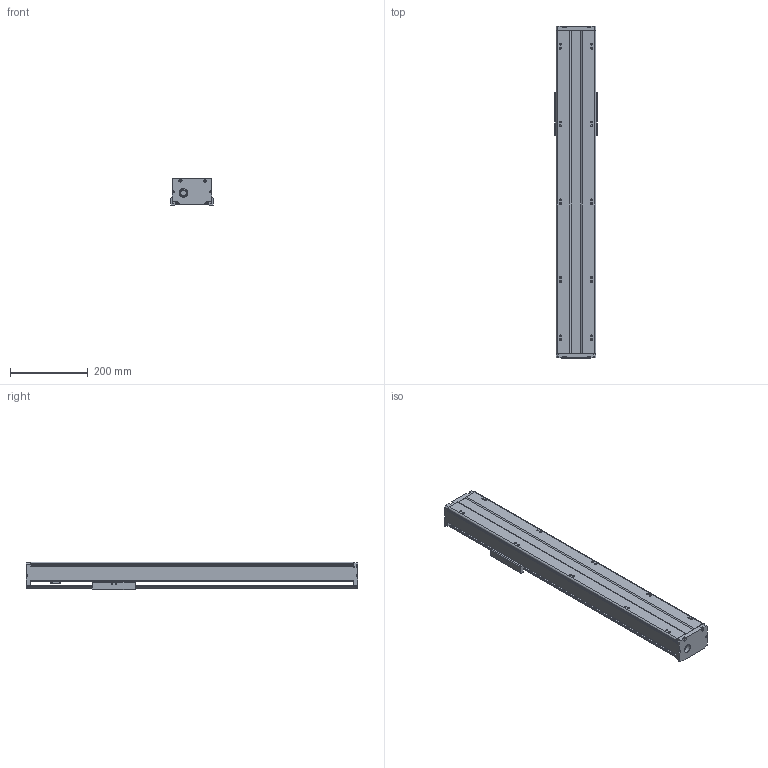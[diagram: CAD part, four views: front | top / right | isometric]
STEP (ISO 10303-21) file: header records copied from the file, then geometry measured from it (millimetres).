
FILE_DESCRIPTION(/* description */ (''),/* implementation_level */ '2;1');
FILE_NAME(/* name */ 'TKA100-600A1F0_asm1.stp',/* time_stamp */ '2017-02-20T16:19:25+08:00',/* author */ (''),/* organization */ (''),/* preprocessor_version */ 'ST-DEVELOPER v15',/* originating_system */ 'SIEMENS PLM Software NX 8.5',/* authorisation */ '');
FILE_SCHEMA (('AUTOMOTIVE_DESIGN { 1 0 10303 214 3 1 1 1 }'));
Length unit declared in the file: millimetre
Products named in the file (3): 200-02; 200-01; TKA100-600A1F0_asm1_stp
Assembly tree (2 placements, depth 2):
  TKA100-600A1F0_asm1_stp
    200-01
    200-02
Bounding box: 110 x 854 x 71 mm (x, y, z)
Volume: 1840439.4 mm3; surface area: 605713.5 mm2
Topology: 2 solids, 8 shells, 685 faces, 1825 edges, 1192 vertices
Faces by surface type: cylinder 267, plane 257, cone 108, torus 27, bspline 26
Full cylindrical faces by diameter (mm): 2.5 x6, 2.6 x8, 3.3 x8, 3.4 x8, 3.8 x4, 4.2 x19, 4.3 x4, 4.5 x4, 5 x1, 5.5 x18, 6.6 x4, 8 x5, 9 x4, 10 x10, 11 x4, 12 x6, 12.05 x2, 15.3 x1, 15.4 x1, 16 x1, 17 x2, 18 x1, 22 x1, 24 x1, 28 x5, 30 x1
Entity records: 25812 total; most frequent: CARTESIAN_POINT 9820, DIRECTION 3263, ORIENTED_EDGE 3056, EDGE_CURVE 1528, AXIS2_PLACEMENT_3D 1305, VERTEX_POINT 1119, EDGE_LOOP 994, ADVANCED_FACE 685
